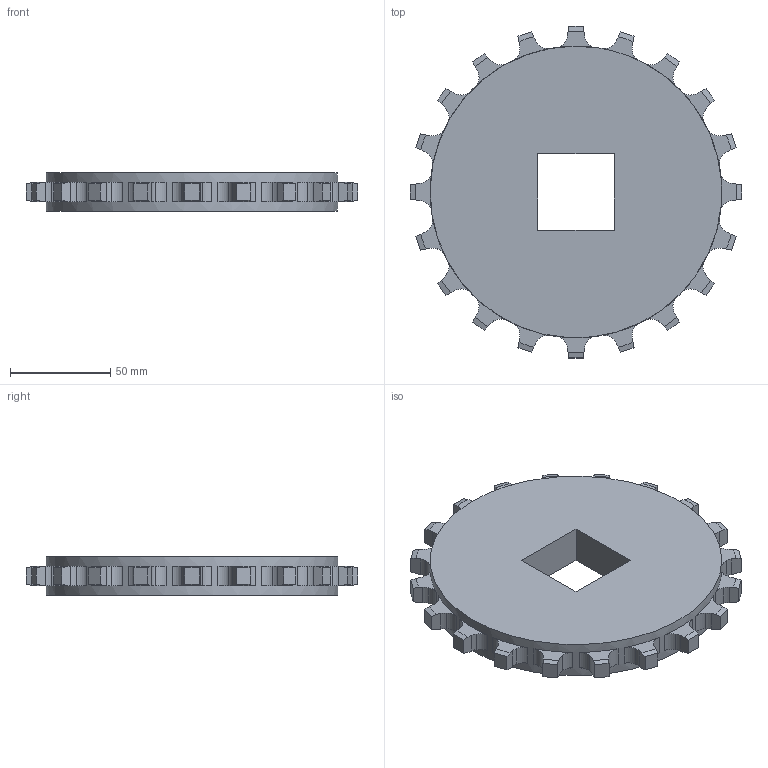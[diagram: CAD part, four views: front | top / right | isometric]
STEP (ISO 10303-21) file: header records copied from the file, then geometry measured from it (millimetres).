
FILE_DESCRIPTION((''),'2;1');
FILE_NAME('S9000_SPROCKET_6-5X15_SQ','2012-07-05T',('rklein'),('INTRALOX'),'PRO/ENGINEER BY PARAMETRIC TECHNOLOGY CORPORATION, 2009460','PRO/ENGINEER BY PARAMETRIC TECHNOLOGY CORPORATION, 2009460','');
FILE_SCHEMA(('CONFIG_CONTROL_DESIGN'));
Length unit declared in the file: inch
Products named in the file (1): S9000_SPROCKET_6-5X15_SQ
Bounding box: 165.53 x 165.53 x 19.05 mm (x, y, z)
Volume: 306963.6 mm3; surface area: 48323.8 mm2
Topology: 1 solids, 1 shells, 228 faces, 618 edges, 412 vertices
Faces by surface type: plane 106, cylinder 82, cone 40
Entity records: 7582 total; most frequent: CARTESIAN_POINT 1770, ORIENTED_EDGE 1236, DIRECTION 1198, EDGE_CURVE 618, AXIS2_PLACEMENT_3D 472, VERTEX_POINT 412, VECTOR 254, LINE 254
